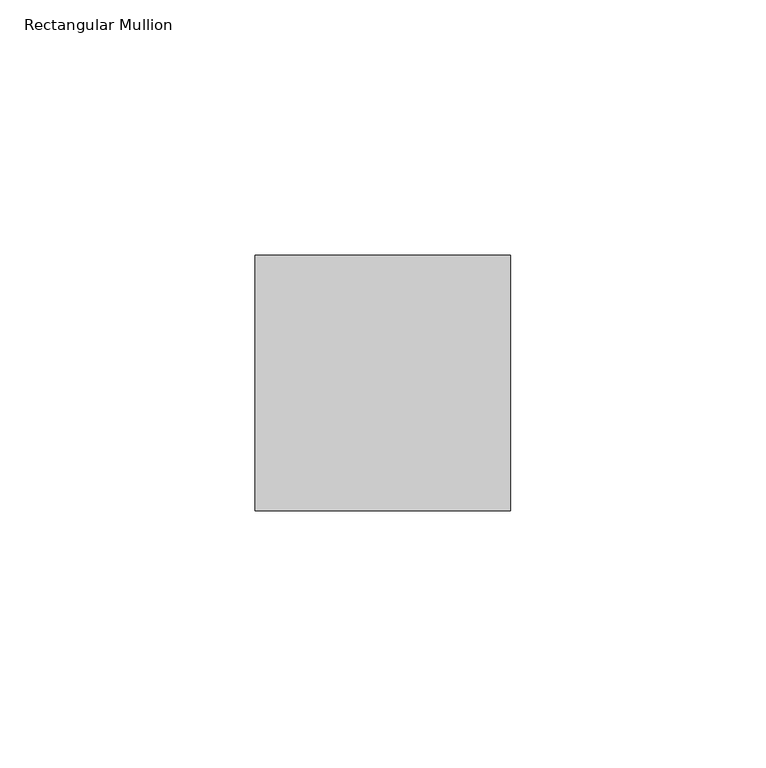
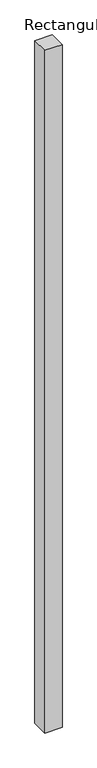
"""IFC4 building model written with IfcOpenShell, lengths in millimetres: member geometry, Rectangular Mullion : Mullion_Curtain Wall_Generic Showcase_50x50mm."""

from ifc_helpers import new_model, si_unit, frame, origin, place, context, project, spatial, polyline, outline, extrude, source, transform, mapped, element, save


def rectangular_mullion_77c6e5ac(model_context):
    return source(origin(), model_context, "Body", "SweptSolid", [
        extrude(outline(polyline([(0.0, 0.0), (0.0, -50.0), (-50.0, -50.0), (-50.0, 0.0), (0.0, 0.0)])), frame((0.0, 0.0, -2096.0060738), z_axis=(0.0, 0.0, 1.0), x_axis=(1.0, 0.0, 0.0)), (0.0, 0.0, 1.0), 2096.0060738),
    ])


if __name__ == "__main__":
    model = new_model("IFC4")
    model_context = context("Model", 3, world=origin())
    ifc_project = project(units=[si_unit("LENGTHUNIT", "METRE", prefix="MILLI")], contexts=[model_context])
    site = spatial("IfcSite", under=ifc_project)
    building = spatial("IfcBuilding", under=site)
    placement = place(None, origin())
    rectangular_mullion_shape = rectangular_mullion_77c6e5ac(model_context)
    element("IfcMember", 1, ObjectType="Rectangular Mullion : Mullion_Curtain Wall_Generic Showcase_50x50mm", at=placement, inside=building, context=model_context, shape_type="MappedRepresentation", body=[
        mapped(rectangular_mullion_shape, transform((0.0, 0.0, 0.0), x_axis=(1.0, 0.0, 0.0), y_axis=(0.0, 1.0, 0.0), z_axis=(0.0, 0.0, 1.0))),
    ])
    save(model, "model.ifc")
